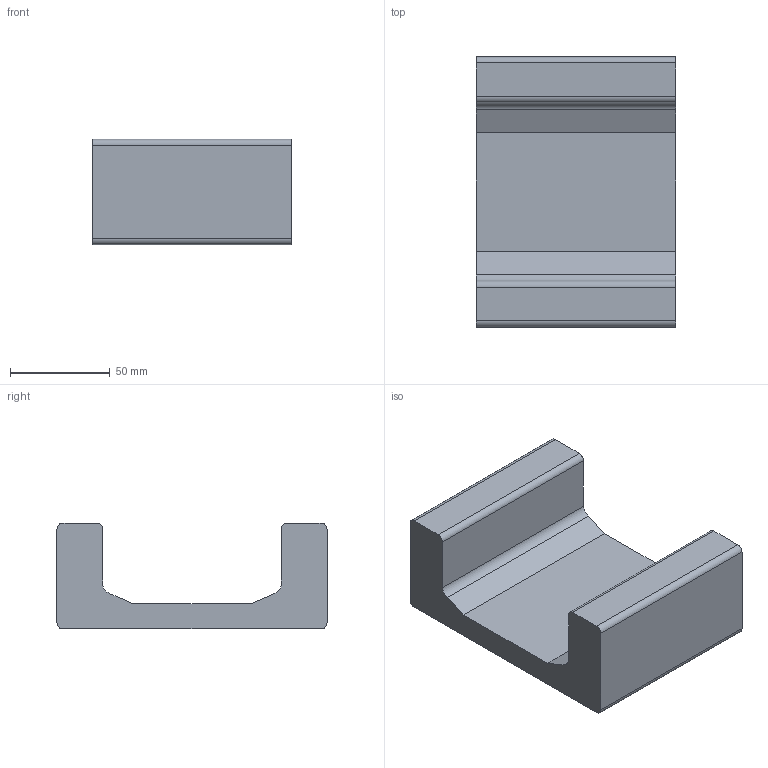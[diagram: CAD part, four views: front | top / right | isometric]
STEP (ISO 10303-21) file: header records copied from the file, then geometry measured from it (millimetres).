
FILE_DESCRIPTION((''),'2;1');
FILE_NAME('K:\Daten\KOMPONENTEN 2D + 3D\KOMPONENTEN Inventor-Files\ALFATEC_UP 090.0700.stp','2013-09-25T14:02:55',('hipp'),(''),'Autodesk Inventor 2013','Autodesk Inventor 2013','');
FILE_SCHEMA(('AUTOMOTIVE_DESIGN { 1 0 10303 214 1 1 1 1 }'));
Length unit declared in the file: millimetre
Products named in the file (1): ALFATEC UP 090.0700 (100mm)
Bounding box: 100 x 135.4 x 53 mm (x, y, z)
Volume: 366174.9 mm3; surface area: 51121.6 mm2
Topology: 1 solids, 1 shells, 20 faces, 54 edges, 36 vertices
Faces by surface type: plane 12, cylinder 8
Entity records: 660 total; most frequent: DIRECTION 112, CARTESIAN_POINT 111, ORIENTED_EDGE 108, EDGE_CURVE 54, VECTOR 38, LINE 38, AXIS2_PLACEMENT_3D 37, VERTEX_POINT 36
